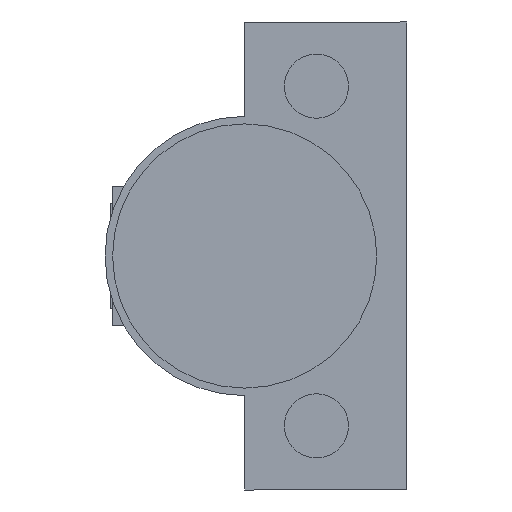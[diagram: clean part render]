
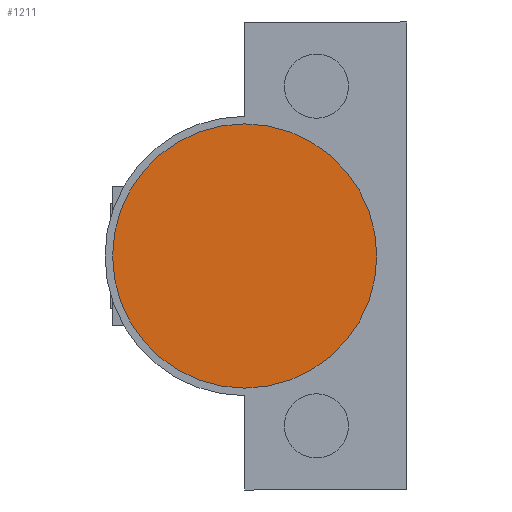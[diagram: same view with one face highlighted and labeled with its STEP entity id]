
A CAD part, front view. The second image highlights one B-rep face of the part: STEP entity #1211.
In plain terms, the highlighted planar face has unit normal (0, -1, 0).
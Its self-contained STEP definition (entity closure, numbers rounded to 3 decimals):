
#98 = EDGE_LOOP ( 'NONE', ( #118, #533 ) ) ;
#118 = ORIENTED_EDGE ( 'NONE', *, *, #1123, .T. ) ;
#150 = AXIS2_PLACEMENT_3D ( 'NONE', #1785, #693, #1245 ) ;
#166 = CIRCLE ( 'NONE', #654, 17.5 ) ;
#241 = DIRECTION ( 'NONE',  ( 1., 0., 0. ) ) ;
#319 = CIRCLE ( 'NONE', #1208, 17.5 ) ;
#481 = VERTEX_POINT ( 'NONE', #792 ) ;
#490 = CARTESIAN_POINT ( 'NONE',  ( 21.5, -51.1, 0. ) ) ;
#533 = ORIENTED_EDGE ( 'NONE', *, *, #1684, .T. ) ;
#565 = PLANE ( 'NONE',  #150 ) ;
#633 = DIRECTION ( 'NONE',  ( 0., -1., 0. ) ) ;
#654 = AXIS2_PLACEMENT_3D ( 'NONE', #490, #633, #1587 ) ;
#670 = CARTESIAN_POINT ( 'NONE',  ( 21.5, -51.1, 0. ) ) ;
#693 = DIRECTION ( 'NONE',  ( 0., -1., 0. ) ) ;
#792 = CARTESIAN_POINT ( 'NONE',  ( 4., -51.1, 0. ) ) ;
#1048 = VERTEX_POINT ( 'NONE', #1324 ) ;
#1123 = EDGE_CURVE ( 'NONE', #481, #1048, #319, .T. ) ;
#1208 = AXIS2_PLACEMENT_3D ( 'NONE', #670, #1335, #241 ) ;
#1211 = ADVANCED_FACE ( 'NONE', ( #1482 ), #565, .T. ) ;
#1245 = DIRECTION ( 'NONE',  ( 1., 0., 0. ) ) ;
#1324 = CARTESIAN_POINT ( 'NONE',  ( 39., -51.1, 0. ) ) ;
#1335 = DIRECTION ( 'NONE',  ( 0., -1., 0. ) ) ;
#1482 = FACE_OUTER_BOUND ( 'NONE', #98, .T. ) ;
#1587 = DIRECTION ( 'NONE',  ( 1., 0., 0. ) ) ;
#1684 = EDGE_CURVE ( 'NONE', #1048, #481, #166, .T. ) ;
#1785 = CARTESIAN_POINT ( 'NONE',  ( 21.5, -51.1, 0. ) ) ;
